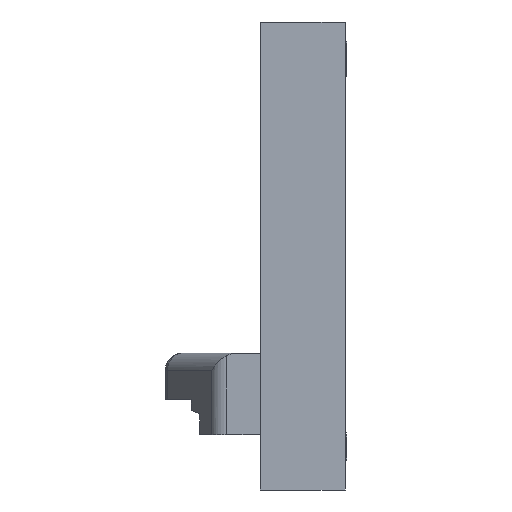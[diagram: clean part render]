
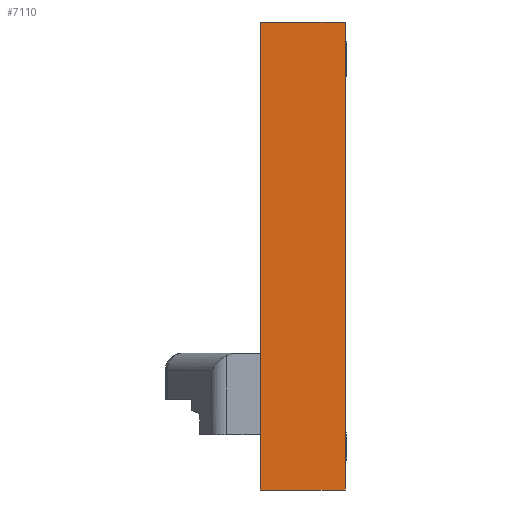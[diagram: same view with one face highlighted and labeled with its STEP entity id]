
A CAD part, left-side view. The second image highlights one B-rep face of the part: STEP entity #7110.
In plain terms, the highlighted planar face has unit normal (-1, 0, 0).
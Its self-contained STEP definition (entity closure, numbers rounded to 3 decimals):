
#313 = VERTEX_POINT ( 'NONE', #5037 ) ;
#332 = VERTEX_POINT ( 'NONE', #5048 ) ;
#337 = VERTEX_POINT ( 'NONE', #5040 ) ;
#338 = VERTEX_POINT ( 'NONE', #5041 ) ;
#494 = EDGE_CURVE ( 'NONE', #338, #337, #1147, .T. ) ;
#526 = EDGE_CURVE ( 'NONE', #337, #313, #1212, .T. ) ;
#527 = EDGE_CURVE ( 'NONE', #313, #332, #1204, .T. ) ;
#528 = EDGE_CURVE ( 'NONE', #332, #338, #1216, .T. ) ;
#829 = ORIENTED_EDGE ( 'NONE', *, *, #528, .F. ) ;
#942 = ORIENTED_EDGE ( 'NONE', *, *, #526, .F. ) ;
#945 = ORIENTED_EDGE ( 'NONE', *, *, #494, .F. ) ;
#1013 = ORIENTED_EDGE ( 'NONE', *, *, #527, .F. ) ;
#1147 = LINE ( 'NONE', #5080, #1150 ) ;
#1150 = VECTOR ( 'NONE', #5079, 1000. ) ;
#1204 = LINE ( 'NONE', #3839, #1217 ) ;
#1212 = LINE ( 'NONE', #1795, #1215 ) ;
#1215 = VECTOR ( 'NONE', #1787, 1000. ) ;
#1216 = LINE ( 'NONE', #1779, #1219 ) ;
#1217 = VECTOR ( 'NONE', #1788, 1000. ) ;
#1219 = VECTOR ( 'NONE', #1790, 1000. ) ;
#1779 = CARTESIAN_POINT ( 'NONE',  ( -3.35, 0.25, 2.6 ) ) ;
#1787 = DIRECTION ( 'NONE',  ( 0., 1., 0. ) ) ;
#1788 = DIRECTION ( 'NONE',  ( 0., 0., 1. ) ) ;
#1790 = DIRECTION ( 'NONE',  ( 0., -1., 0. ) ) ;
#1795 = CARTESIAN_POINT ( 'NONE',  ( -3.35, 0.25, -0.1 ) ) ;
#2728 = AXIS2_PLACEMENT_3D ( 'NONE', #4355, #4365, #4366 ) ;
#3839 = CARTESIAN_POINT ( 'NONE',  ( -3.35, 0.495, 1.25 ) ) ;
#3937 = FACE_OUTER_BOUND ( 'NONE', #6439, .T. ) ;
#4355 = CARTESIAN_POINT ( 'NONE',  ( -3.35, 0.005, 2.6 ) ) ;
#4363 = PLANE ( 'NONE',  #2728 ) ;
#4365 = DIRECTION ( 'NONE',  ( 1., 0., 0. ) ) ;
#4366 = DIRECTION ( 'NONE',  ( 0., 0., -1. ) ) ;
#5037 = CARTESIAN_POINT ( 'NONE',  ( -3.35, 0.495, -0.1 ) ) ;
#5040 = CARTESIAN_POINT ( 'NONE',  ( -3.35, 0.005, -0.1 ) ) ;
#5041 = CARTESIAN_POINT ( 'NONE',  ( -3.35, 0.005, 2.6 ) ) ;
#5048 = CARTESIAN_POINT ( 'NONE',  ( -3.35, 0.495, 2.6 ) ) ;
#5079 = DIRECTION ( 'NONE',  ( 0., 0., -1. ) ) ;
#5080 = CARTESIAN_POINT ( 'NONE',  ( -3.35, 0.005, 1.25 ) ) ;
#6439 = EDGE_LOOP ( 'NONE', ( #945, #829, #1013, #942 ) ) ;
#7110 = ADVANCED_FACE ( 'NONE', ( #3937 ), #4363, .F. ) ;
